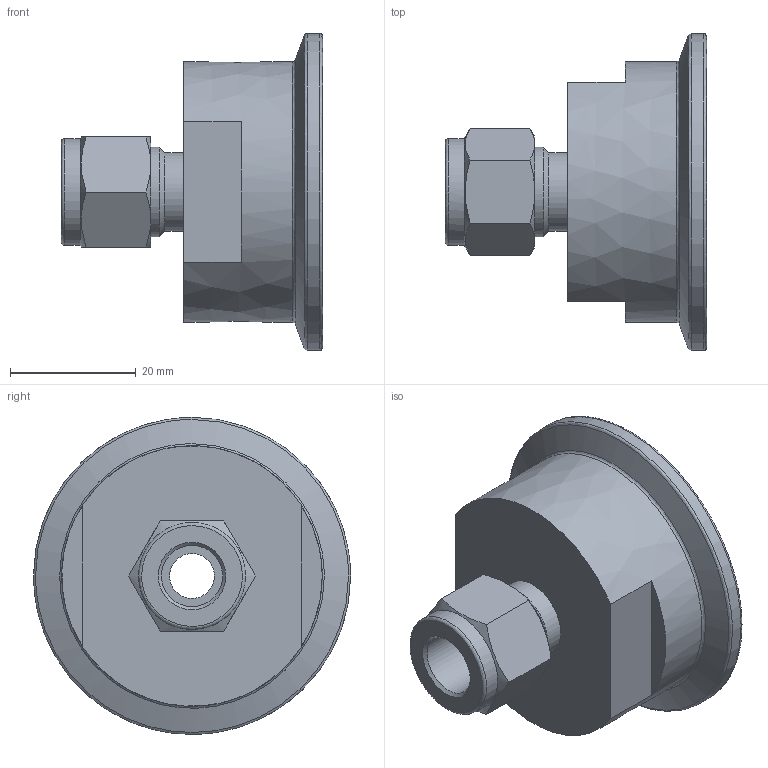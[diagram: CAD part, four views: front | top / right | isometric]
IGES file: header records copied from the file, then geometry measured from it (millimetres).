
Global section: file name: SSFA-6-16SA; native system: Autodesk Inventor 2016; preprocessor: unknown; author: DESIGNPC2; date: 20160312.144653; units: millimetre
Bounding box: 41.51 x 50.4 x 50.4 mm (x, y, z)
Volume: 30501.4 mm3; surface area: 9267.6 mm2
Topology: 1 solids, 1 shells, 44 faces, 128 edges, 90 vertices
Faces by surface type: bspline 44
